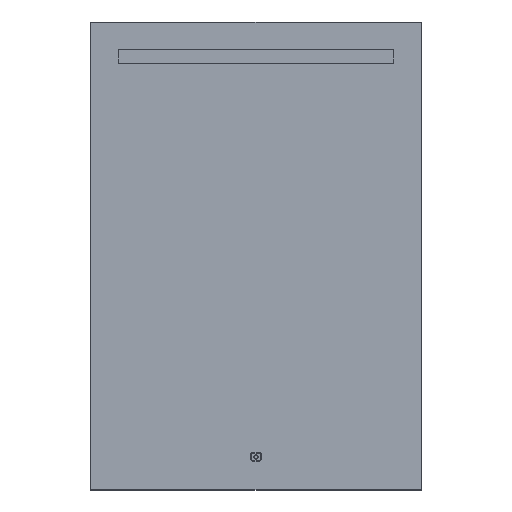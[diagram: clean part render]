
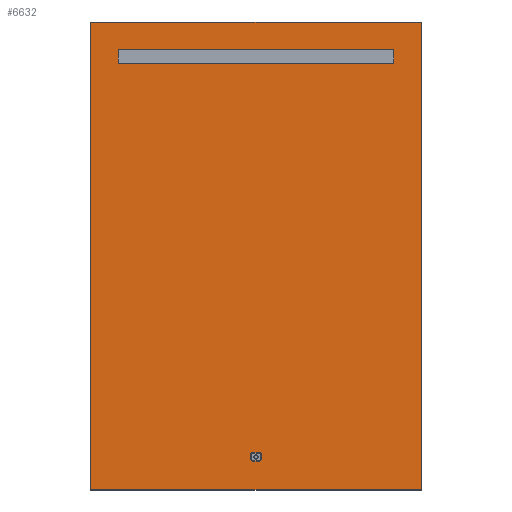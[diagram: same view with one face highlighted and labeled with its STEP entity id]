
A CAD part, top view. The second image highlights one B-rep face of the part: STEP entity #6632.
In plain terms, the highlighted planar face has unit normal (0, 0, 1).
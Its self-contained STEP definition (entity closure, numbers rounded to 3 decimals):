
#24 = DIRECTION ( 'NONE',  ( 0., 0., -1. ) ) ;
#102 = CIRCLE ( 'NONE', #575, 4. ) ;
#135 = VERTEX_POINT ( 'NONE', #509 ) ;
#260 = DIRECTION ( 'NONE',  ( -1., 0., 0. ) ) ;
#314 = CARTESIAN_POINT ( 'NONE',  ( 0., 375., 2.5 ) ) ;
#463 = VERTEX_POINT ( 'NONE', #4272 ) ;
#487 = DIRECTION ( 'NONE',  ( 0., 0., 1. ) ) ;
#494 = ORIENTED_EDGE ( 'NONE', *, *, #4458, .T. ) ;
#498 = EDGE_CURVE ( 'NONE', #618, #5391, #2721, .T. ) ;
#509 = CARTESIAN_POINT ( 'NONE',  ( 300., 425., 2.5 ) ) ;
#532 = DIRECTION ( 'NONE',  ( 0., 1., 0. ) ) ;
#547 = AXIS2_PLACEMENT_3D ( 'NONE', #1963, #6397, #927 ) ;
#573 = ORIENTED_EDGE ( 'NONE', *, *, #6930, .F. ) ;
#575 = AXIS2_PLACEMENT_3D ( 'NONE', #3039, #3554, #260 ) ;
#586 = CARTESIAN_POINT ( 'NONE',  ( -300., 425., 2.5 ) ) ;
#618 = VERTEX_POINT ( 'NONE', #4866 ) ;
#654 = CARTESIAN_POINT ( 'NONE',  ( 0., -357.5, 2.5 ) ) ;
#664 = DIRECTION ( 'NONE',  ( 0., 1., 0. ) ) ;
#742 = DIRECTION ( 'NONE',  ( -1., 0., 0. ) ) ;
#797 = LINE ( 'NONE', #5997, #6748 ) ;
#867 = DIRECTION ( 'NONE',  ( -1., 0., 0. ) ) ;
#889 = VECTOR ( 'NONE', #4962, 1000. ) ;
#927 = DIRECTION ( 'NONE',  ( -1., 0., 0. ) ) ;
#933 = CARTESIAN_POINT ( 'NONE',  ( -300., -425., 2.5 ) ) ;
#957 = LINE ( 'NONE', #3262, #6439 ) ;
#1126 = LINE ( 'NONE', #7051, #1486 ) ;
#1134 = CARTESIAN_POINT ( 'NONE',  ( 300., -425., 2.5 ) ) ;
#1158 = LINE ( 'NONE', #1822, #3658 ) ;
#1189 = ORIENTED_EDGE ( 'NONE', *, *, #3793, .F. ) ;
#1199 = CIRCLE ( 'NONE', #547, 4. ) ;
#1353 = ORIENTED_EDGE ( 'NONE', *, *, #3294, .F. ) ;
#1370 = VERTEX_POINT ( 'NONE', #2757 ) ;
#1394 = VERTEX_POINT ( 'NONE', #6134 ) ;
#1455 = ORIENTED_EDGE ( 'NONE', *, *, #4064, .T. ) ;
#1486 = VECTOR ( 'NONE', #4816, 1000. ) ;
#1489 = CARTESIAN_POINT ( 'NONE',  ( 250., 0., 2.5 ) ) ;
#1548 = FACE_BOUND ( 'NONE', #6769, .T. ) ;
#1566 = CARTESIAN_POINT ( 'NONE',  ( 250., 375., 2.5 ) ) ;
#1629 = FACE_OUTER_BOUND ( 'NONE', #4493, .T. ) ;
#1790 = VERTEX_POINT ( 'NONE', #3320 ) ;
#1822 = CARTESIAN_POINT ( 'NONE',  ( -300., -425., 2.5 ) ) ;
#1886 = EDGE_CURVE ( 'NONE', #3059, #135, #4082, .T. ) ;
#1900 = AXIS2_PLACEMENT_3D ( 'NONE', #5743, #4564, #742 ) ;
#1906 = EDGE_LOOP ( 'NONE', ( #573, #4046, #5397, #5241, #2767, #5371, #3110, #2303 ) ) ;
#1963 = CARTESIAN_POINT ( 'NONE',  ( 6., -361.5, 2.5 ) ) ;
#2084 = VECTOR ( 'NONE', #6055, 1000. ) ;
#2132 = VECTOR ( 'NONE', #3733, 1000. ) ;
#2146 = VERTEX_POINT ( 'NONE', #6529 ) ;
#2300 = DIRECTION ( 'NONE',  ( 1., 0., 0. ) ) ;
#2303 = ORIENTED_EDGE ( 'NONE', *, *, #3722, .F. ) ;
#2426 = VERTEX_POINT ( 'NONE', #5582 ) ;
#2542 = CIRCLE ( 'NONE', #5726, 4. ) ;
#2674 = FACE_BOUND ( 'NONE', #1906, .T. ) ;
#2721 = LINE ( 'NONE', #1489, #5451 ) ;
#2755 = CARTESIAN_POINT ( 'NONE',  ( -300., 425., 2.5 ) ) ;
#2757 = CARTESIAN_POINT ( 'NONE',  ( -250., 350., 2.5 ) ) ;
#2767 = ORIENTED_EDGE ( 'NONE', *, *, #6542, .F. ) ;
#2798 = LINE ( 'NONE', #3861, #2084 ) ;
#3039 = CARTESIAN_POINT ( 'NONE',  ( -6., -361.5, 2.5 ) ) ;
#3059 = VERTEX_POINT ( 'NONE', #6128 ) ;
#3110 = ORIENTED_EDGE ( 'NONE', *, *, #4282, .F. ) ;
#3191 = CARTESIAN_POINT ( 'NONE',  ( 0., -372.5, 2.5 ) ) ;
#3262 = CARTESIAN_POINT ( 'NONE',  ( -300., -425., 2.5 ) ) ;
#3274 = VERTEX_POINT ( 'NONE', #933 ) ;
#3294 = EDGE_CURVE ( 'NONE', #1370, #618, #1126, .T. ) ;
#3320 = CARTESIAN_POINT ( 'NONE',  ( 6., -357.5, 2.5 ) ) ;
#3346 = EDGE_CURVE ( 'NONE', #6828, #4694, #3469, .T. ) ;
#3440 = DIRECTION ( 'NONE',  ( -1., 0., 0. ) ) ;
#3469 = LINE ( 'NONE', #3191, #3885 ) ;
#3554 = DIRECTION ( 'NONE',  ( 0., 0., 1. ) ) ;
#3658 = VECTOR ( 'NONE', #2300, 1000. ) ;
#3722 = EDGE_CURVE ( 'NONE', #1790, #463, #6457, .T. ) ;
#3733 = DIRECTION ( 'NONE',  ( 0., 1., 0. ) ) ;
#3793 = EDGE_CURVE ( 'NONE', #5391, #4297, #4319, .T. ) ;
#3861 = CARTESIAN_POINT ( 'NONE',  ( -250., 0., 2.5 ) ) ;
#3884 = DIRECTION ( 'NONE',  ( 0., -1., 0. ) ) ;
#3885 = VECTOR ( 'NONE', #4845, 1000. ) ;
#4045 = EDGE_CURVE ( 'NONE', #5138, #2426, #797, .T. ) ;
#4046 = ORIENTED_EDGE ( 'NONE', *, *, #6823, .F. ) ;
#4064 = EDGE_CURVE ( 'NONE', #135, #6626, #5268, .T. ) ;
#4082 = LINE ( 'NONE', #1134, #4839 ) ;
#4126 = CARTESIAN_POINT ( 'NONE',  ( -10., -361.5, 2.5 ) ) ;
#4267 = CARTESIAN_POINT ( 'NONE',  ( -6., -372.5, 2.5 ) ) ;
#4272 = CARTESIAN_POINT ( 'NONE',  ( -6., -357.5, 2.5 ) ) ;
#4282 = EDGE_CURVE ( 'NONE', #463, #5138, #102, .T. ) ;
#4297 = VERTEX_POINT ( 'NONE', #5233 ) ;
#4319 = LINE ( 'NONE', #314, #4914 ) ;
#4331 = DIRECTION ( 'NONE',  ( -1., 0., 0. ) ) ;
#4340 = DIRECTION ( 'NONE',  ( 0., -1., 0. ) ) ;
#4358 = CARTESIAN_POINT ( 'NONE',  ( 0., 0., 2.5 ) ) ;
#4456 = CARTESIAN_POINT ( 'NONE',  ( 6., -372.5, 2.5 ) ) ;
#4458 = EDGE_CURVE ( 'NONE', #6626, #3274, #957, .T. ) ;
#4493 = EDGE_LOOP ( 'NONE', ( #6544, #1455, #494, #5015 ) ) ;
#4564 = DIRECTION ( 'NONE',  ( 0., 0., 1. ) ) ;
#4646 = CIRCLE ( 'NONE', #1900, 4. ) ;
#4694 = VERTEX_POINT ( 'NONE', #4456 ) ;
#4716 = ORIENTED_EDGE ( 'NONE', *, *, #498, .F. ) ;
#4816 = DIRECTION ( 'NONE',  ( 1., 0., 0. ) ) ;
#4839 = VECTOR ( 'NONE', #664, 1000. ) ;
#4845 = DIRECTION ( 'NONE',  ( 1., 0., 0. ) ) ;
#4866 = CARTESIAN_POINT ( 'NONE',  ( 250., 350., 2.5 ) ) ;
#4914 = VECTOR ( 'NONE', #867, 1000. ) ;
#4962 = DIRECTION ( 'NONE',  ( -1., 0., 0. ) ) ;
#5010 = VECTOR ( 'NONE', #3440, 1000. ) ;
#5015 = ORIENTED_EDGE ( 'NONE', *, *, #5074, .T. ) ;
#5074 = EDGE_CURVE ( 'NONE', #3274, #3059, #1158, .T. ) ;
#5138 = VERTEX_POINT ( 'NONE', #4126 ) ;
#5233 = CARTESIAN_POINT ( 'NONE',  ( -250., 375., 2.5 ) ) ;
#5241 = ORIENTED_EDGE ( 'NONE', *, *, #3346, .F. ) ;
#5268 = LINE ( 'NONE', #586, #889 ) ;
#5371 = ORIENTED_EDGE ( 'NONE', *, *, #4045, .F. ) ;
#5391 = VERTEX_POINT ( 'NONE', #1566 ) ;
#5397 = ORIENTED_EDGE ( 'NONE', *, *, #6522, .F. ) ;
#5451 = VECTOR ( 'NONE', #532, 1000. ) ;
#5491 = CARTESIAN_POINT ( 'NONE',  ( 6., -368.5, 2.5 ) ) ;
#5582 = CARTESIAN_POINT ( 'NONE',  ( -10., -368.5, 2.5 ) ) ;
#5663 = ORIENTED_EDGE ( 'NONE', *, *, #5733, .F. ) ;
#5682 = LINE ( 'NONE', #6461, #2132 ) ;
#5726 = AXIS2_PLACEMENT_3D ( 'NONE', #5491, #487, #6600 ) ;
#5733 = EDGE_CURVE ( 'NONE', #4297, #1370, #2798, .T. ) ;
#5743 = CARTESIAN_POINT ( 'NONE',  ( -6., -368.5, 2.5 ) ) ;
#5997 = CARTESIAN_POINT ( 'NONE',  ( -10., 0., 2.5 ) ) ;
#6055 = DIRECTION ( 'NONE',  ( 0., -1., 0. ) ) ;
#6128 = CARTESIAN_POINT ( 'NONE',  ( 300., -425., 2.5 ) ) ;
#6134 = CARTESIAN_POINT ( 'NONE',  ( 10., -368.5, 2.5 ) ) ;
#6397 = DIRECTION ( 'NONE',  ( 0., 0., 1. ) ) ;
#6439 = VECTOR ( 'NONE', #4340, 1000. ) ;
#6457 = LINE ( 'NONE', #654, #5010 ) ;
#6461 = CARTESIAN_POINT ( 'NONE',  ( 10., 0., 2.5 ) ) ;
#6522 = EDGE_CURVE ( 'NONE', #4694, #1394, #2542, .T. ) ;
#6529 = CARTESIAN_POINT ( 'NONE',  ( 10., -361.5, 2.5 ) ) ;
#6542 = EDGE_CURVE ( 'NONE', #2426, #6828, #4646, .T. ) ;
#6544 = ORIENTED_EDGE ( 'NONE', *, *, #1886, .T. ) ;
#6600 = DIRECTION ( 'NONE',  ( -1., 0., 0. ) ) ;
#6626 = VERTEX_POINT ( 'NONE', #2755 ) ;
#6632 = ADVANCED_FACE ( 'NONE', ( #2674, #1629, #1548 ), #7089, .F. ) ;
#6748 = VECTOR ( 'NONE', #3884, 1000. ) ;
#6769 = EDGE_LOOP ( 'NONE', ( #4716, #1353, #5663, #1189 ) ) ;
#6823 = EDGE_CURVE ( 'NONE', #1394, #2146, #5682, .T. ) ;
#6828 = VERTEX_POINT ( 'NONE', #4267 ) ;
#6843 = AXIS2_PLACEMENT_3D ( 'NONE', #4358, #24, #4331 ) ;
#6930 = EDGE_CURVE ( 'NONE', #2146, #1790, #1199, .T. ) ;
#7051 = CARTESIAN_POINT ( 'NONE',  ( 0., 350., 2.5 ) ) ;
#7089 = PLANE ( 'NONE',  #6843 ) ;
